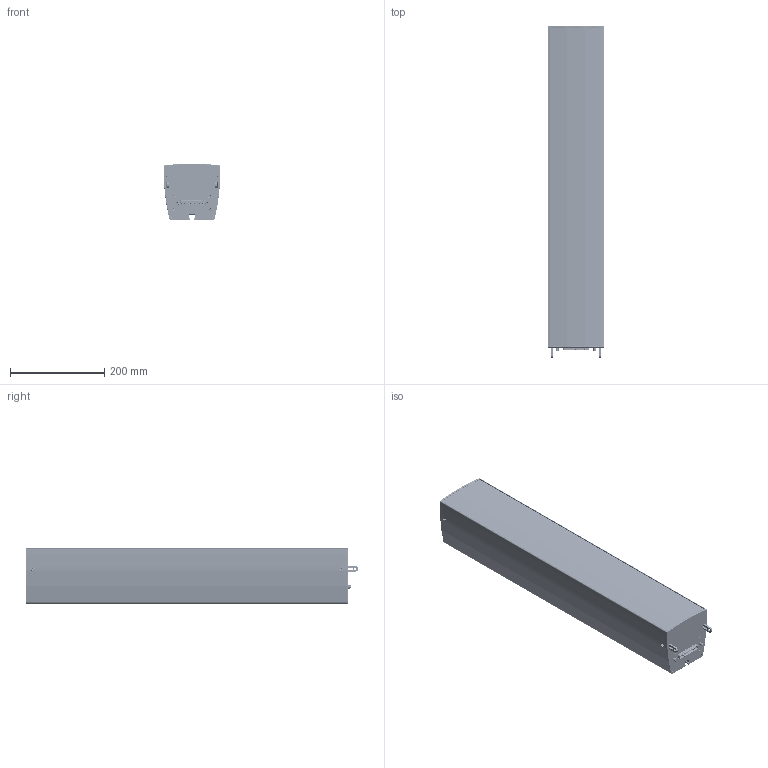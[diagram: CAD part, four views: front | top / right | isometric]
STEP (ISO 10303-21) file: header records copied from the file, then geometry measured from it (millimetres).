
FILE_DESCRIPTION (( 'STEP AP203' ), '1' );
FILE_NAME ('iBeam_Slave.STEP', '2022-03-07T08:02:51', ( '' ), ( '' ), 'SwSTEP 2.0', 'SolidWorks 2009', '' );
FILE_SCHEMA (( 'CONFIG_CONTROL_DESIGN' ));
Length unit declared in the file: millimetre
Products named in the file (22): LBS V4 Gitter Slave; iBeam_Slave; LBS V4 Strangprofil Slave; LBS V4 Deckel; LBS V4 Deckel-Spacer; Abstandsbolzen M3x10; MSC_B05; MSC_B06; Pan Head Cross Recess Screw_ISO_ISO 7045 - M3 x 8 - Z --- 8C; LBS V4 Boden Slave; Hex Socket Head Screws_ISO_ISO 14586 - ST3.5 x 9.5-F-N; LBS V4 Verbinder Klemmstein; LBS Passstift D6x15; prevailing torque nut style 1 insert_DIN_DIN EN ISO 7040 - M3 - N; LBS V4 Boden-Spacer; Socket Head Cap Screw_DIN_DIN 912 M5 x 12 --- 12N; Socket Countersunk Head Screw_DIN_DIN 7991 - M3 x 8 --- 4.8N; LBS V4 Verbinder; Socket Countersunk Head Screw_DIN_DIN 7991 - M3 x 16 --- 16N; Socket Countersunk Head Screw_DIN_DIN 7991 - M5 x 8 --- 8N; Socket Countersunk Head Screw_DIN_DIN 7991 - M5 x 10 --- 10N; Square Nut Thin Grade B_DIN_Square nut DIN 562 M6 -C
Assembly tree (62 placements, depth 2):
  iBeam_Slave
    Hex Socket Head Screws_ISO_ISO 14586 - ST3.5 x 9.5-F-N  x8
    Pan Head Cross Recess Screw_ISO_ISO 7045 - M3 x 8 - Z --- 8C  x4
    Socket Countersunk Head Screw_DIN_DIN 7991 - M3 x 8 --- 4.8N  x6
    LBS V4 Boden-Spacer
    prevailing torque nut style 1 insert_DIN_DIN EN ISO 7040 - M3 - N  x8
    LBS V4 Verbinder Klemmstein  x4
    LBS V4 Verbinder  x2
    Socket Countersunk Head Screw_DIN_DIN 7991 - M3 x 16 --- 16N  x4
    MSC_B06
    LBS V4 Gitter Slave
    Socket Countersunk Head Screw_DIN_DIN 7991 - M5 x 8 --- 8N
    Socket Head Cap Screw_DIN_DIN 912 M5 x 12 --- 12N  x4
    LBS Passstift D6x15  x2
    LBS V4 Boden Slave
    Abstandsbolzen M3x10  x4
    Socket Countersunk Head Screw_DIN_DIN 7991 - M5 x 10 --- 10N  x3
    LBS V4 Deckel
    LBS V4 Strangprofil Slave
    Square Nut Thin Grade B_DIN_Square nut DIN 562 M6 -C  x4
    LBS V4 Deckel-Spacer
    MSC_B05
Bounding box: 120 x 703 x 120 mm (x, y, z)
Volume: 1380124.9 mm3; surface area: 973507.1 mm2
Topology: 68 solids, 70 shells, 9996 faces, 26444 edges, 16785 vertices
Faces by surface type: plane 5124, cylinder 2411, bspline 1480, cone 400, torus 342, sphere 239
Entity records: 310757 total; most frequent: CARTESIAN_POINT 97599, ORIENTED_EDGE 45600, DIRECTION 40371, EDGE_CURVE 22800, VECTOR 14769, LINE 14769, VERTEX_POINT 14732, AXIS2_PLACEMENT_3D 12801
